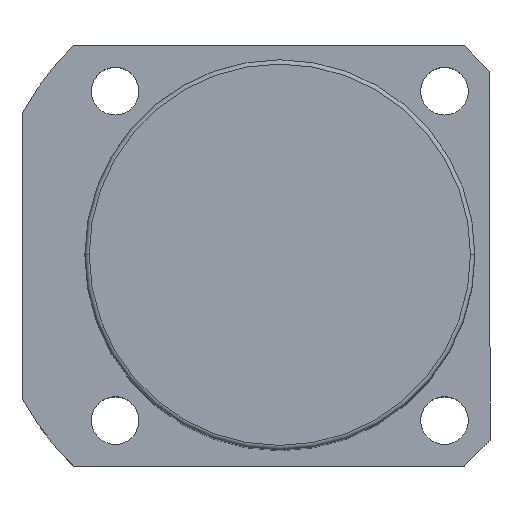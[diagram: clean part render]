
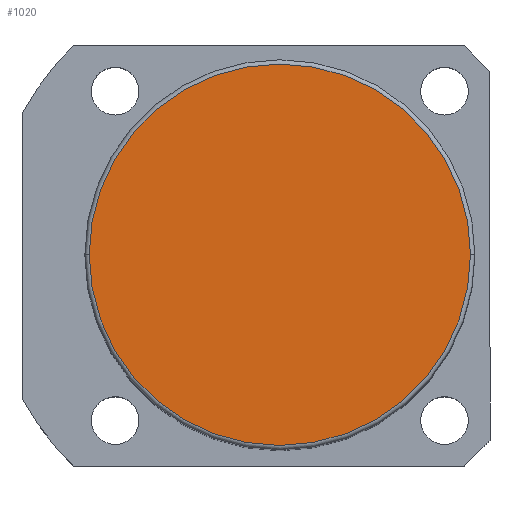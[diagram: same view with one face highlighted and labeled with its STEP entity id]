
A CAD part, top view. The second image highlights one B-rep face of the part: STEP entity #1020.
In plain terms, the highlighted planar face has unit normal (0, 0, 1).
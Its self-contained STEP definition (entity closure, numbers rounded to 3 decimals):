
#137 = AXIS2_PLACEMENT_3D ( 'NONE', #966, #1472, #453 ) ;
#198 = CARTESIAN_POINT ( 'NONE',  ( 0., 0., 161.5 ) ) ;
#210 = ORIENTED_EDGE ( 'NONE', *, *, #2198, .T. ) ;
#310 = FACE_OUTER_BOUND ( 'NONE', #1690, .T. ) ;
#312 = CARTESIAN_POINT ( 'NONE',  ( 0., 0., 161.5 ) ) ;
#320 = EDGE_CURVE ( 'NONE', #1710, #322, #2173, .T. ) ;
#322 = VERTEX_POINT ( 'NONE', #1853 ) ;
#453 = DIRECTION ( 'NONE',  ( 1., 0., 0. ) ) ;
#532 = CIRCLE ( 'NONE', #1374, 44. ) ;
#733 = AXIS2_PLACEMENT_3D ( 'NONE', #198, #1384, #1761 ) ;
#850 = CARTESIAN_POINT ( 'NONE',  ( -44., 0., 161.5 ) ) ;
#966 = CARTESIAN_POINT ( 'NONE',  ( 0., 0., 161.5 ) ) ;
#969 = DIRECTION ( 'NONE',  ( 0., 0., 1. ) ) ;
#1020 = ADVANCED_FACE ( 'NONE', ( #310 ), #1281, .T. ) ;
#1281 = PLANE ( 'NONE',  #137 ) ;
#1374 = AXIS2_PLACEMENT_3D ( 'NONE', #312, #969, #1661 ) ;
#1384 = DIRECTION ( 'NONE',  ( 0., 0., 1. ) ) ;
#1472 = DIRECTION ( 'NONE',  ( 0., 0., 1. ) ) ;
#1661 = DIRECTION ( 'NONE',  ( 1., 0., 0. ) ) ;
#1690 = EDGE_LOOP ( 'NONE', ( #210, #1769 ) ) ;
#1710 = VERTEX_POINT ( 'NONE', #850 ) ;
#1761 = DIRECTION ( 'NONE',  ( 1., 0., 0. ) ) ;
#1769 = ORIENTED_EDGE ( 'NONE', *, *, #320, .T. ) ;
#1853 = CARTESIAN_POINT ( 'NONE',  ( 44., 0., 161.5 ) ) ;
#2173 = CIRCLE ( 'NONE', #733, 44. ) ;
#2198 = EDGE_CURVE ( 'NONE', #322, #1710, #532, .T. ) ;
